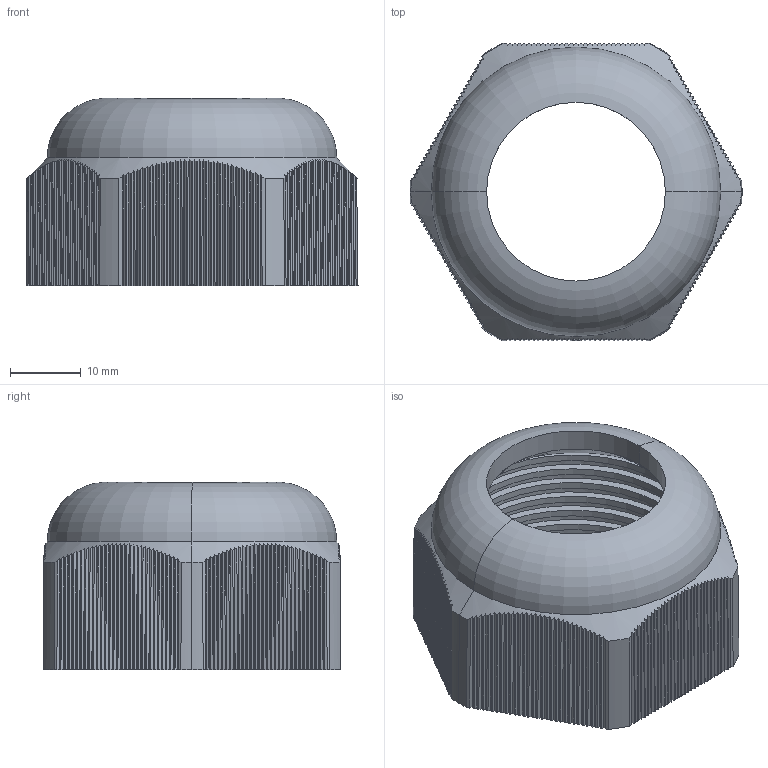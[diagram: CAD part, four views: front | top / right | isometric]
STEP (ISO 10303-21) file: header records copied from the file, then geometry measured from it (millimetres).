
FILE_DESCRIPTION (( 'STEP AP203' ), '1' );
FILE_NAME ('plc-pg-29-00.00.002 Ãàéêà öàíãîâàÿ (PG29) #collet nut (PG29)#.STEP', '2021-06-01T13:00:25', ( '' ), ( '' ), 'SwSTEP 2.0', 'SolidWorks 2021', '' );
FILE_SCHEMA (( 'CONFIG_CONTROL_DESIGN' ));
Length unit declared in the file: millimetre
Products named in the file (1): plc-pg-29-00.00.002 Ãàéêà öàíãîâàÿ (PG29) #collet nut (PG29)#
Bounding box: 46.82 x 42.02 x 26.41 mm (x, y, z)
Volume: 11550.3 mm3; surface area: 9954.1 mm2
Topology: 1 solids, 1 shells, 614 faces, 1826 edges, 1213 vertices
Faces by surface type: plane 557, cone 34, torus 11, cylinder 6, bspline 6
Entity records: 26185 total; most frequent: CARTESIAN_POINT 10869, ORIENTED_EDGE 3652, DIRECTION 2458, EDGE_CURVE 1826, VERTEX_POINT 1213, LINE 1130, VECTOR 1130, AXIS2_PLACEMENT_3D 664
